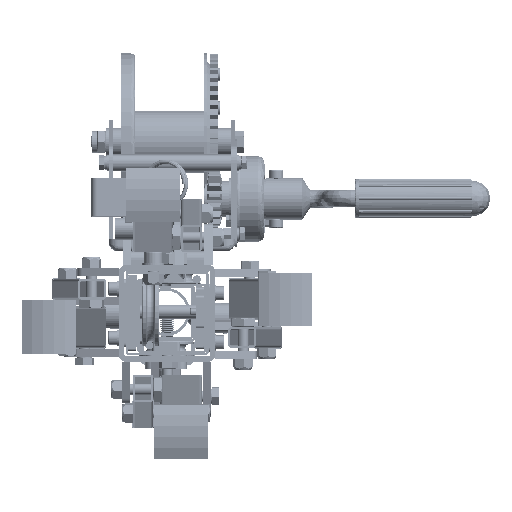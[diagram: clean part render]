
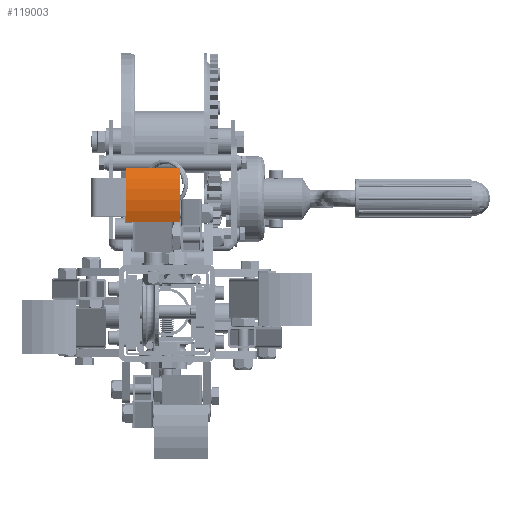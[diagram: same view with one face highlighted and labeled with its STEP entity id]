
A CAD part, front view. The second image highlights one B-rep face of the part: STEP entity #119003.
In plain terms, the highlighted cylindrical face has radius 49.531 mm (diameter 99.063 mm), a partial arc.
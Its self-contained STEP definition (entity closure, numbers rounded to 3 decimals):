
#492 = EDGE_CURVE ( 'NONE', #79652, #151147, #45789, .T. ) ;
#2138 = DIRECTION ( 'NONE',  ( 0., 0., 1. ) ) ;
#5297 = AXIS2_PLACEMENT_3D ( 'NONE', #74750, #19889, #145785 ) ;
#7383 = CARTESIAN_POINT ( 'NONE',  ( -19.5, 0., -19.5 ) ) ;
#8138 = CARTESIAN_POINT ( 'NONE',  ( 19.5, 0., -19.5 ) ) ;
#9032 = CYLINDRICAL_SURFACE ( 'NONE', #5297, 49.531 ) ;
#17688 = ORIENTED_EDGE ( 'NONE', *, *, #30981, .F. ) ;
#19889 = DIRECTION ( 'NONE',  ( 0., 0., 1. ) ) ;
#23678 = CARTESIAN_POINT ( 'NONE',  ( -19.5, 0., 19.5 ) ) ;
#30981 = EDGE_CURVE ( 'NONE', #32232, #79652, #90058, .T. ) ;
#32232 = VERTEX_POINT ( 'NONE', #173953 ) ;
#42355 = ORIENTED_EDGE ( 'NONE', *, *, #492, .F. ) ;
#45789 = CIRCLE ( 'NONE', #100316, 49.531 ) ;
#58435 = AXIS2_PLACEMENT_3D ( 'NONE', #150624, #96565, #151510 ) ;
#62673 = EDGE_CURVE ( 'NONE', #151147, #69649, #109703, .T. ) ;
#69649 = VERTEX_POINT ( 'NONE', #8138 ) ;
#69663 = VECTOR ( 'NONE', #164705, 1000. ) ;
#73598 = EDGE_LOOP ( 'NONE', ( #104223, #83596, #42355, #17688 ) ) ;
#74750 = CARTESIAN_POINT ( 'NONE',  ( 0., 45.531, -58.705 ) ) ;
#79652 = VERTEX_POINT ( 'NONE', #23678 ) ;
#83596 = ORIENTED_EDGE ( 'NONE', *, *, #62673, .F. ) ;
#90058 = LINE ( 'NONE', #7383, #117714 ) ;
#96215 = CARTESIAN_POINT ( 'NONE',  ( 19.5, 0., 0. ) ) ;
#96565 = DIRECTION ( 'NONE',  ( 0., 0., -1. ) ) ;
#100316 = AXIS2_PLACEMENT_3D ( 'NONE', #125323, #2138, #154153 ) ;
#104223 = ORIENTED_EDGE ( 'NONE', *, *, #148173, .F. ) ;
#109703 = LINE ( 'NONE', #96215, #69663 ) ;
#112973 = CIRCLE ( 'NONE', #58435, 49.531 ) ;
#117714 = VECTOR ( 'NONE', #127021, 1000. ) ;
#118812 = CARTESIAN_POINT ( 'NONE',  ( 19.5, 0., 19.5 ) ) ;
#119003 = ADVANCED_FACE ( 'NONE', ( #130454 ), #9032, .T. ) ;
#125323 = CARTESIAN_POINT ( 'NONE',  ( 0., 45.531, 19.5 ) ) ;
#127021 = DIRECTION ( 'NONE',  ( 0., 0., 1. ) ) ;
#130454 = FACE_OUTER_BOUND ( 'NONE', #73598, .T. ) ;
#145785 = DIRECTION ( 'NONE',  ( 1., 0., 0. ) ) ;
#148173 = EDGE_CURVE ( 'NONE', #69649, #32232, #112973, .T. ) ;
#150624 = CARTESIAN_POINT ( 'NONE',  ( 0., 45.531, -19.5 ) ) ;
#151147 = VERTEX_POINT ( 'NONE', #118812 ) ;
#151510 = DIRECTION ( 'NONE',  ( 1., 0., 0. ) ) ;
#154153 = DIRECTION ( 'NONE',  ( 1., 0., 0. ) ) ;
#164705 = DIRECTION ( 'NONE',  ( 0., 0., -1. ) ) ;
#173953 = CARTESIAN_POINT ( 'NONE',  ( -19.5, 0., -19.5 ) ) ;
